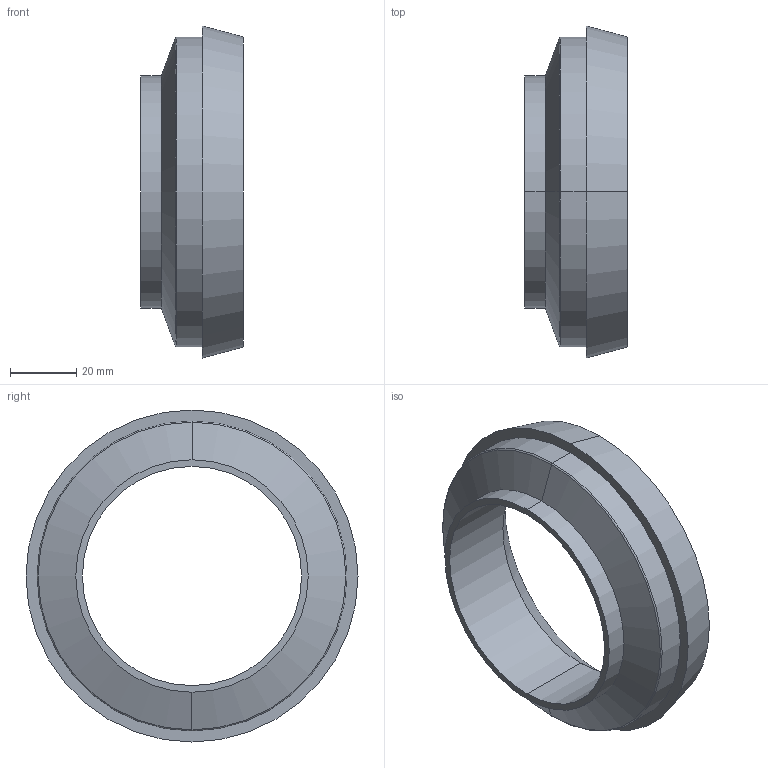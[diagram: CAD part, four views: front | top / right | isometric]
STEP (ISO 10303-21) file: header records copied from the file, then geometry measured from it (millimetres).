
FILE_DESCRIPTION (( 'STEP AP203' ), '1' );
FILE_NAME ('3D-M2024P_80-65_174211170.STEP', '2024-09-06T10:01:48', ( '' ), ( '' ), 'SwSTEP 2.0', 'SolidWorks 2024', '' );
FILE_SCHEMA (( 'CONFIG_CONTROL_DESIGN' ));
Length unit declared in the file: millimetre
Products named in the file (1): 3D-M2024P_80-65_174211170
Bounding box: 31 x 100 x 100 mm (x, y, z)
Volume: 79812.9 mm3; surface area: 21225.4 mm2
Topology: 1 solids, 1 shells, 17 faces, 34 edges, 20 vertices
Faces by surface type: cone 6, cylinder 6, plane 3, torus 2
Entity records: 527 total; most frequent: DIRECTION 92, CARTESIAN_POINT 72, ORIENTED_EDGE 68, AXIS2_PLACEMENT_3D 40, EDGE_CURVE 34, CIRCLE 22, EDGE_LOOP 20, VERTEX_POINT 20
